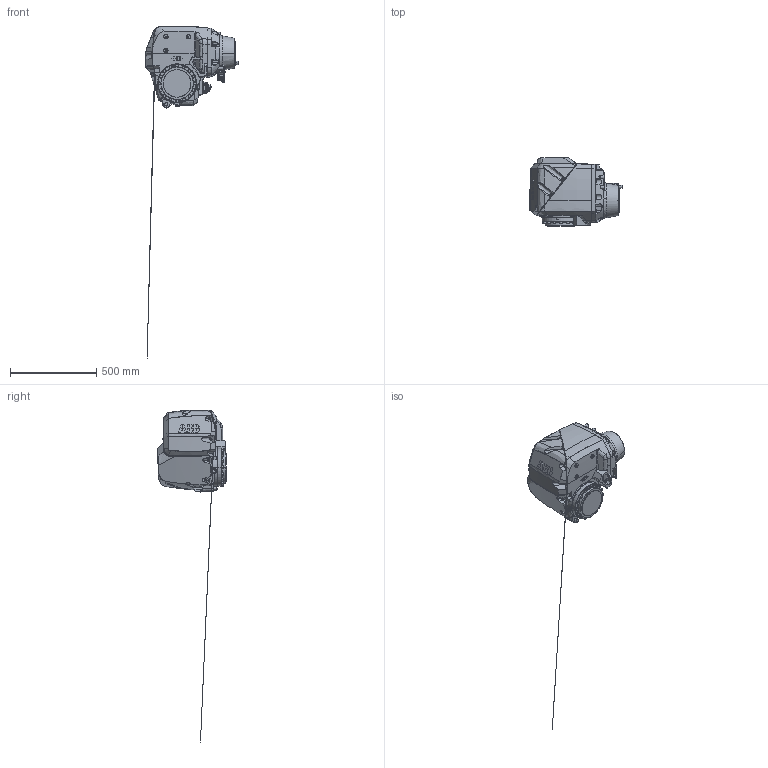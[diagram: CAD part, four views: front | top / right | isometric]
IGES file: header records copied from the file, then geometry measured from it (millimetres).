
Start section: SolidWorks IGES file using analytic representation for surfaces
Global section: file name: C:\Data\SAP_DOC\_2016-Q4_Lättmodeller RobCal\CAD Model_IRB4600_Rev04\IRB4600_40kg-255_IRC5_rev04\IRB4600_40kg-255_IRC5_rev04_IRC5_IGES_j\IRB4600_40kg-255_LINK3_CAD_rev04.IGS; native system: SolidWorks 2014; preprocessor: SolidWorks 2014; author: SEMAAXM; date: 161206.112845; units: millimetre
Bounding box: 533.59 x 398.62 x 1920.97 mm (x, y, z)
Surface area: 1002875.1 mm2 (no closed solid volume)
Topology: 0 solids, 0 shells, 1073 faces, 16309 edges, 16267 vertices
Faces by surface type: bspline 667, revolution 406
